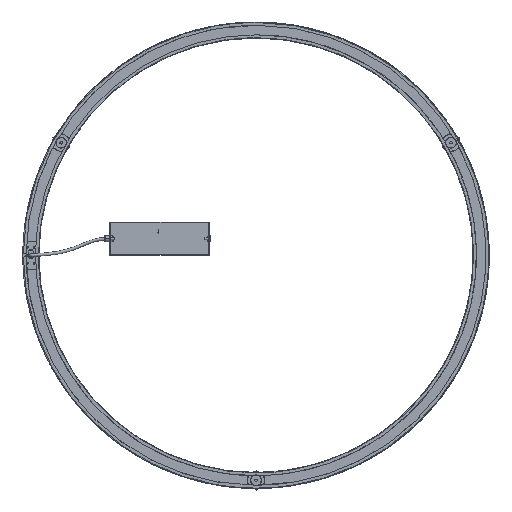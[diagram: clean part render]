
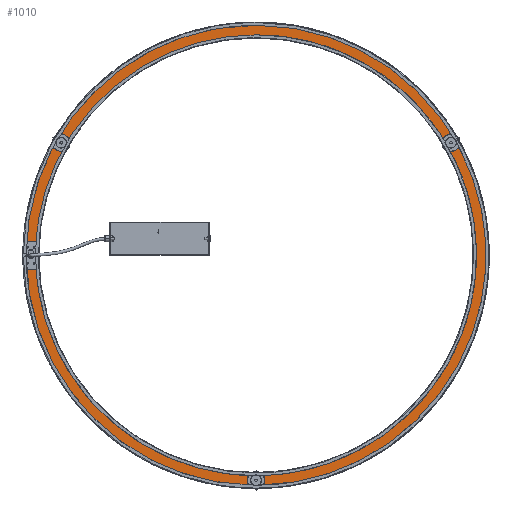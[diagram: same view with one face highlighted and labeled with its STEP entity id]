
A CAD part, top view. The second image highlights one B-rep face of the part: STEP entity #1010.
In plain terms, the highlighted planar face has unit normal (0, 0, 1).
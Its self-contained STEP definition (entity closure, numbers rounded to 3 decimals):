
#1010=ADVANCED_FACE('',(#2615),#22188,.T.);
#2615=FACE_OUTER_BOUND('',#4233,.T.);
#4233=EDGE_LOOP('',(#8417,#8418,#8419,#8420,#8421,#8422,#8423,#8424,#8425,
#8426,#8427,#8428,#8429));
#8417=ORIENTED_EDGE('',*,*,#14357,.T.);
#8418=ORIENTED_EDGE('',*,*,#14091,.F.);
#8419=ORIENTED_EDGE('',*,*,#14298,.F.);
#8420=ORIENTED_EDGE('',*,*,#13326,.F.);
#8421=ORIENTED_EDGE('',*,*,#13330,.F.);
#8422=ORIENTED_EDGE('',*,*,#14074,.T.);
#8423=ORIENTED_EDGE('',*,*,#13160,.T.);
#8424=ORIENTED_EDGE('',*,*,#14362,.T.);
#8425=ORIENTED_EDGE('',*,*,#14350,.T.);
#8426=ORIENTED_EDGE('',*,*,#14301,.T.);
#8427=ORIENTED_EDGE('',*,*,#13323,.T.);
#8428=ORIENTED_EDGE('',*,*,#13319,.T.);
#8429=ORIENTED_EDGE('',*,*,#14300,.T.);
#13160=EDGE_CURVE('',#20348,#20347,#16709,.T.);
#13319=EDGE_CURVE('',#20452,#20453,#16825,.T.);
#13323=EDGE_CURVE('',#20456,#20452,#16827,.T.);
#13326=EDGE_CURVE('',#20458,#20459,#16829,.T.);
#13330=EDGE_CURVE('',#20462,#20458,#16831,.T.);
#14074=EDGE_CURVE('',#20462,#20348,#18547,.T.);
#14091=EDGE_CURVE('',#20941,#20924,#18564,.T.);
#14298=EDGE_CURVE('',#20459,#20941,#17490,.T.);
#14300=EDGE_CURVE('',#20453,#20983,#18638,.T.);
#14301=EDGE_CURVE('',#20985,#20456,#17492,.T.);
#14350=EDGE_CURVE('',#20984,#20985,#18656,.T.);
#14357=EDGE_CURVE('',#20983,#20924,#17524,.T.);
#14362=EDGE_CURVE('',#20347,#20984,#17527,.T.);
#16709=(
BOUNDED_CURVE()
B_SPLINE_CURVE(2,(#64074,#64075,#64076),.UNSPECIFIED.,.F.,.F.)
B_SPLINE_CURVE_WITH_KNOTS((3,3),(-7.52,0.),.UNSPECIFIED.)
CURVE()
GEOMETRIC_REPRESENTATION_ITEM()
RATIONAL_B_SPLINE_CURVE((1.,0.73,1.))
REPRESENTATION_ITEM('')
);
#16825=(
BOUNDED_CURVE()
B_SPLINE_CURVE(2,(#64568,#64569,#64570),.UNSPECIFIED.,.F.,.F.)
B_SPLINE_CURVE_WITH_KNOTS((3,3),(-782.021,0.),.UNSPECIFIED.)
CURVE()
GEOMETRIC_REPRESENTATION_ITEM()
RATIONAL_B_SPLINE_CURVE((1.,0.707,1.))
REPRESENTATION_ITEM('')
);
#16827=(
BOUNDED_CURVE()
B_SPLINE_CURVE(2,(#64578,#64579,#64580,#64581,#64582),.UNSPECIFIED.,.F.,
 .F.)
B_SPLINE_CURVE_WITH_KNOTS((3,2,3),(-1564.042,-782.021,
0.),.UNSPECIFIED.)
CURVE()
GEOMETRIC_REPRESENTATION_ITEM()
RATIONAL_B_SPLINE_CURVE((1.,0.707,1.,0.707,1.))
REPRESENTATION_ITEM('')
);
#16829=(
BOUNDED_CURVE()
B_SPLINE_CURVE(2,(#64590,#64591,#64592,#64593,#64594),.UNSPECIFIED.,.F.,
 .F.)
B_SPLINE_CURVE_WITH_KNOTS((3,2,3),(0.,734.583,1469.166),
 .UNSPECIFIED.)
CURVE()
GEOMETRIC_REPRESENTATION_ITEM()
RATIONAL_B_SPLINE_CURVE((1.,0.707,1.,0.707,1.))
REPRESENTATION_ITEM('')
);
#16831=(
BOUNDED_CURVE()
B_SPLINE_CURVE(2,(#64604,#64605,#64606),.UNSPECIFIED.,.F.,.F.)
B_SPLINE_CURVE_WITH_KNOTS((3,3),(0.,734.256),.UNSPECIFIED.)
CURVE()
GEOMETRIC_REPRESENTATION_ITEM()
RATIONAL_B_SPLINE_CURVE((1.,0.707,1.))
REPRESENTATION_ITEM('')
);
#17490=(
BOUNDED_CURVE()
B_SPLINE_CURVE(2,(#67495,#67496,#67497),.UNSPECIFIED.,.F.,.F.)
B_SPLINE_CURVE_WITH_KNOTS((3,3),(0.,734.583),.UNSPECIFIED.)
CURVE()
GEOMETRIC_REPRESENTATION_ITEM()
RATIONAL_B_SPLINE_CURVE((1.,0.707,1.))
REPRESENTATION_ITEM('')
);
#17492=(
BOUNDED_CURVE()
B_SPLINE_CURVE(2,(#67503,#67504,#67505),.UNSPECIFIED.,.F.,.F.)
B_SPLINE_CURVE_WITH_KNOTS((3,3),(-781.673,0.),.UNSPECIFIED.)
CURVE()
GEOMETRIC_REPRESENTATION_ITEM()
RATIONAL_B_SPLINE_CURVE((1.,0.707,1.))
REPRESENTATION_ITEM('')
);
#17524=(
BOUNDED_CURVE()
B_SPLINE_CURVE(2,(#67647,#67648,#67649,#67650,#67651),.UNSPECIFIED.,.F.,
 .F.)
B_SPLINE_CURVE_WITH_KNOTS((3,2,3),(-15.708,-7.854,
0.),.UNSPECIFIED.)
CURVE()
GEOMETRIC_REPRESENTATION_ITEM()
RATIONAL_B_SPLINE_CURVE((1.,0.707,1.,0.707,1.))
REPRESENTATION_ITEM('')
);
#17527=(
BOUNDED_CURVE()
B_SPLINE_CURVE(2,(#67664,#67665,#67666),.UNSPECIFIED.,.F.,.F.)
B_SPLINE_CURVE_WITH_KNOTS((3,3),(-7.513,0.),.UNSPECIFIED.)
CURVE()
GEOMETRIC_REPRESENTATION_ITEM()
RATIONAL_B_SPLINE_CURVE((1.,0.731,1.))
REPRESENTATION_ITEM('')
);
#18547=B_SPLINE_CURVE_WITH_KNOTS('',1,(#66904,#66905),.UNSPECIFIED.,.F.,
 .F.,(2,2),(-10.111,0.),.UNSPECIFIED.);
#18564=B_SPLINE_CURVE_WITH_KNOTS('',1,(#66938,#66939),.UNSPECIFIED.,.F.,
 .F.,(2,2),(0.,10.1),.UNSPECIFIED.);
#18638=B_SPLINE_CURVE_WITH_KNOTS('',1,(#67501,#67502),.UNSPECIFIED.,.F.,
 .F.,(2,2),(0.,10.1),.UNSPECIFIED.);
#18656=B_SPLINE_CURVE_WITH_KNOTS('',1,(#67633,#67634),.UNSPECIFIED.,.F.,
 .F.,(2,2),(-10.111,0.),.UNSPECIFIED.);
#20347=VERTEX_POINT('',#62725);
#20348=VERTEX_POINT('',#62726);
#20452=VERTEX_POINT('',#62830);
#20453=VERTEX_POINT('',#62831);
#20456=VERTEX_POINT('',#62834);
#20458=VERTEX_POINT('',#62836);
#20459=VERTEX_POINT('',#62837);
#20462=VERTEX_POINT('',#62840);
#20924=VERTEX_POINT('',#63302);
#20941=VERTEX_POINT('',#63319);
#20983=VERTEX_POINT('',#63361);
#20984=VERTEX_POINT('',#63362);
#20985=VERTEX_POINT('',#63363);
#22188=PLANE('',#23729);
#23729=AXIS2_PLACEMENT_3D('',#61118,#24208,$);
#24208=DIRECTION('',(0.,0.,1.));
#61118=CARTESIAN_POINT('',(-597.42,569.949,3.925));
#62725=CARTESIAN_POINT('',(-482.75,-32.471,3.925));
#62726=CARTESIAN_POINT('',(-477.761,-27.804,3.925));
#62830=CARTESIAN_POINT('',(0.,470.379,3.925));
#62831=CARTESIAN_POINT('',(-497.85,-27.471,3.925));
#62834=CARTESIAN_POINT('',(0.,-525.321,3.925));
#62836=CARTESIAN_POINT('',(0.,-495.121,3.925));
#62837=CARTESIAN_POINT('',(0.,440.179,3.925));
#62840=CARTESIAN_POINT('',(-467.65,-27.797,3.925));
#63302=CARTESIAN_POINT('',(-477.75,-27.471,3.925));
#63319=CARTESIAN_POINT('',(-467.65,-27.471,3.925));
#63361=CARTESIAN_POINT('',(-487.75,-27.471,3.925));
#63362=CARTESIAN_POINT('',(-487.738,-27.811,3.925));
#63363=CARTESIAN_POINT('',(-497.85,-27.818,3.925));
#64074=CARTESIAN_POINT('',(-477.761,-27.804,3.925));
#64075=CARTESIAN_POINT('',(-478.073,-32.471,3.925));
#64076=CARTESIAN_POINT('',(-482.75,-32.471,3.925));
#64568=CARTESIAN_POINT('',(0.,470.379,3.925));
#64569=CARTESIAN_POINT('',(-497.85,470.379,3.925));
#64570=CARTESIAN_POINT('',(-497.85,-27.471,3.925));
#64578=CARTESIAN_POINT('',(0.,-525.321,3.925));
#64579=CARTESIAN_POINT('',(497.85,-525.321,3.925));
#64580=CARTESIAN_POINT('',(497.85,-27.471,3.925));
#64581=CARTESIAN_POINT('',(497.85,470.379,3.925));
#64582=CARTESIAN_POINT('',(0.,470.379,3.925));
#64590=CARTESIAN_POINT('',(0.,-495.121,3.925));
#64591=CARTESIAN_POINT('',(467.65,-495.121,3.925));
#64592=CARTESIAN_POINT('',(467.65,-27.471,3.925));
#64593=CARTESIAN_POINT('',(467.65,440.179,3.925));
#64594=CARTESIAN_POINT('',(0.,440.179,3.925));
#64604=CARTESIAN_POINT('',(-467.65,-27.797,3.925));
#64605=CARTESIAN_POINT('',(-467.324,-495.121,3.925));
#64606=CARTESIAN_POINT('',(0.,-495.121,3.925));
#66904=CARTESIAN_POINT('',(-467.65,-27.797,3.925));
#66905=CARTESIAN_POINT('',(-477.761,-27.804,3.925));
#66938=CARTESIAN_POINT('',(-467.65,-27.471,3.925));
#66939=CARTESIAN_POINT('',(-477.75,-27.471,3.925));
#67495=CARTESIAN_POINT('',(0.,440.179,3.925));
#67496=CARTESIAN_POINT('',(-467.65,440.179,3.925));
#67497=CARTESIAN_POINT('',(-467.65,-27.471,3.925));
#67501=CARTESIAN_POINT('',(-497.85,-27.471,3.925));
#67502=CARTESIAN_POINT('',(-487.75,-27.471,3.925));
#67503=CARTESIAN_POINT('',(-497.85,-27.818,3.925));
#67504=CARTESIAN_POINT('',(-497.503,-525.321,3.925));
#67505=CARTESIAN_POINT('',(0.,-525.321,3.925));
#67633=CARTESIAN_POINT('',(-487.738,-27.811,3.925));
#67634=CARTESIAN_POINT('',(-497.85,-27.818,3.925));
#67647=CARTESIAN_POINT('',(-487.75,-27.471,3.925));
#67648=CARTESIAN_POINT('',(-487.75,-22.471,3.925));
#67649=CARTESIAN_POINT('',(-482.75,-22.471,3.925));
#67650=CARTESIAN_POINT('',(-477.75,-22.471,3.925));
#67651=CARTESIAN_POINT('',(-477.75,-27.471,3.925));
#67664=CARTESIAN_POINT('',(-482.75,-32.471,3.925));
#67665=CARTESIAN_POINT('',(-487.42,-32.471,3.925));
#67666=CARTESIAN_POINT('',(-487.738,-27.811,3.925));
